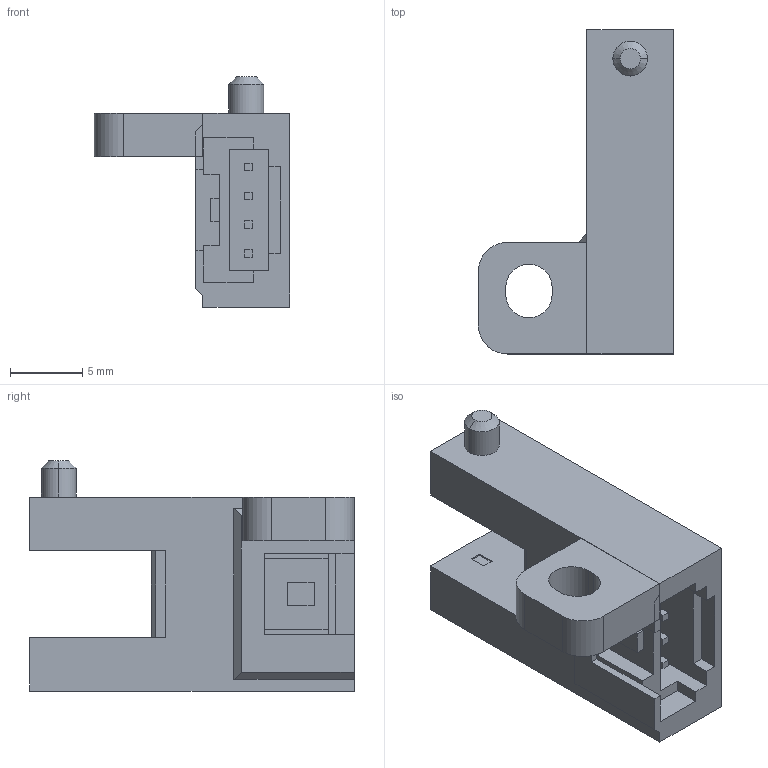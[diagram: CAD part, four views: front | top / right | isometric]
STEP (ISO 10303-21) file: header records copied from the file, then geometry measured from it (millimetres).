
FILE_DESCRIPTION (( 'STEP AP203' ), '1' );
FILE_NAME ('pm-r65.STEP', '2017-10-12T06:47:13', ( '' ), ( '' ), 'SwSTEP 2.0', 'SolidWorks 2014', '' );
FILE_SCHEMA (( 'CONFIG_CONTROL_DESIGN' ));
Length unit declared in the file: millimetre
Products named in the file (1): pm-r65
Bounding box: 13.5 x 22.4 x 15.9 mm (x, y, z)
Volume: 1474.1 mm3; surface area: 1440 mm2
Topology: 2 solids, 2 shells, 112 faces, 290 edges, 192 vertices
Faces by surface type: plane 104, cylinder 6, cone 2
Entity records: 3435 total; most frequent: CARTESIAN_POINT 595, ORIENTED_EDGE 580, DIRECTION 530, EDGE_CURVE 290, VECTOR 276, LINE 276, VERTEX_POINT 192, AXIS2_PLACEMENT_3D 127
